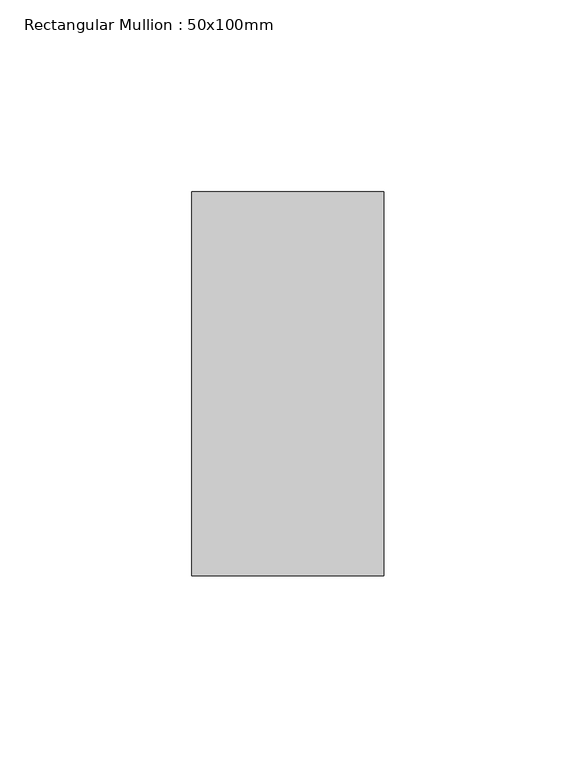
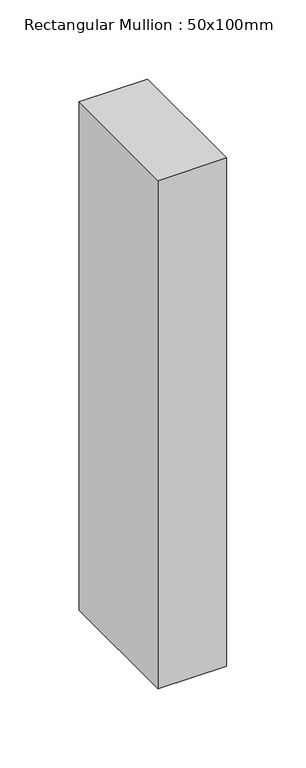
"""IFC4 building model written with IfcOpenShell, lengths in millimetres: member geometry, Rectangular Mullion : 50x100mm."""

from ifc_helpers import new_model, si_unit, frame, origin, place, context, project, spatial, polyline, outline, extrude, source, transform, mapped, element, save


def rectangular_mullion_50x100mm_d16c89f5(model_context):
    return source(origin(), model_context, "Body", "SweptSolid", [
        extrude(outline(polyline([(0.0, 50.0), (0.0, -50.0), (-50.0, -50.0), (-50.0, 50.0), (0.0, 50.0)])), frame((0.0, 0.0, -391.6679794), z_axis=(0.0, 0.0, 1.0), x_axis=(1.0, 0.0, 0.0)), (0.0, 0.0, 1.0), 391.6679794),
    ])


if __name__ == "__main__":
    model = new_model("IFC4")
    model_context = context("Model", 3, world=origin())
    ifc_project = project(units=[si_unit("LENGTHUNIT", "METRE", prefix="MILLI")], contexts=[model_context])
    site = spatial("IfcSite", under=ifc_project)
    building = spatial("IfcBuilding", under=site)
    placement = place(None, origin())
    rectangular_mullion_50x100mm_shape = rectangular_mullion_50x100mm_d16c89f5(model_context)
    element("IfcMember", 1, ObjectType="Rectangular Mullion : 50x100mm", at=placement, inside=building, context=model_context, shape_type="MappedRepresentation", body=[
        mapped(rectangular_mullion_50x100mm_shape, transform((0.0, 0.0, 0.0), x_axis=(1.0, 0.0, 0.0), y_axis=(0.0, 1.0, 0.0), z_axis=(0.0, 0.0, 1.0))),
    ])
    save(model, "model.ifc")
